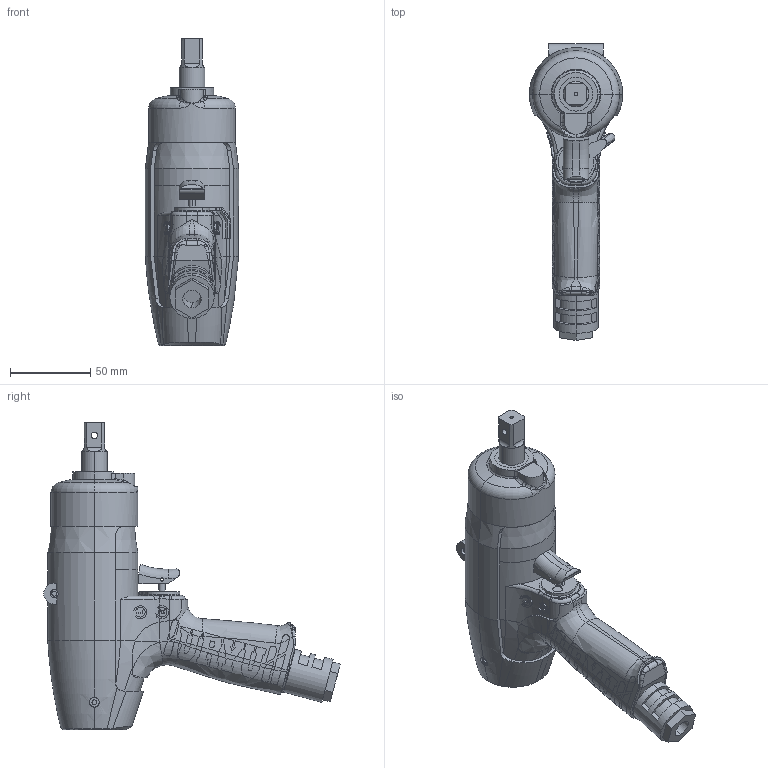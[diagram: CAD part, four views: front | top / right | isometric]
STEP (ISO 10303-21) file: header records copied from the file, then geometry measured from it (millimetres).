
FILE_DESCRIPTION (( 'STEP AP203' ), '1' );
FILE_NAME ('UAT90.STEP', '2015-07-23T02:01:45', ( '' ), ( '' ), 'SwSTEP 2.0', 'SolidWorks 2014', '' );
FILE_SCHEMA (( 'CONFIG_CONTROL_DESIGN' ));
Length unit declared in the file: millimetre
Products named in the file (8): 1478422_UAT90; 1478409_ULT90; UAT90; 1473198_ULT90; 1474398_ULT90; 1470258_UAT90; 1472128_ULT90; 1471072_ULT90
Assembly tree (7 placements, depth 2):
  UAT90
    1473198_ULT90
    1474398_ULT90
    1470258_UAT90
    1472128_ULT90
    1471072_ULT90
    1478422_UAT90
    1478409_ULT90
Bounding box: 58 x 184.34 x 191 mm (x, y, z)
Volume: 487320.4 mm3; surface area: 116642.6 mm2
Topology: 7 solids, 7 shells, 1270 faces, 3516 edges, 2280 vertices
Faces by surface type: plane 720, cylinder 253, bspline 237, torus 36, cone 24
Entity records: 59569 total; most frequent: CARTESIAN_POINT 29685, ORIENTED_EDGE 7008, DIRECTION 4648, EDGE_CURVE 3504, VERTEX_POINT 2280, VECTOR 1588, LINE 1588, AXIS2_PLACEMENT_3D 1530
